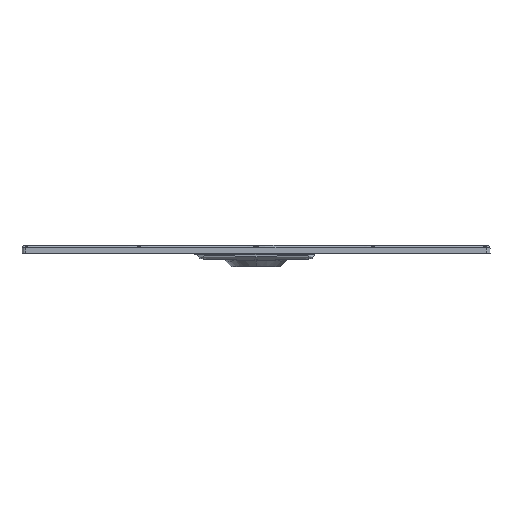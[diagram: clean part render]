
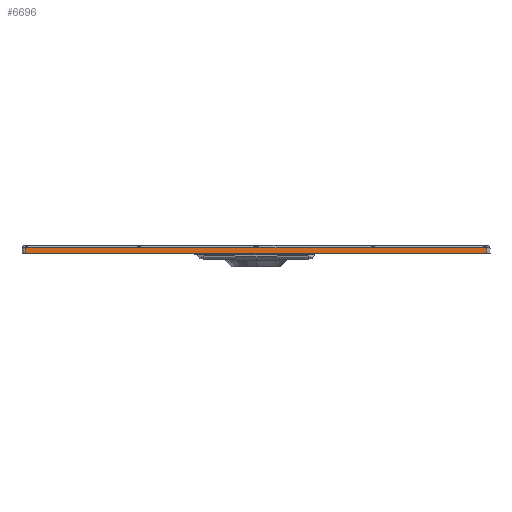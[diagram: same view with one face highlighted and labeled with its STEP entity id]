
A CAD part, top view. The second image highlights one B-rep face of the part: STEP entity #6696.
In plain terms, the highlighted planar face has unit normal (0, 0, 1).
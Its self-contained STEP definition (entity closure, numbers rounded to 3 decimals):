
#327=DIRECTION('',(0.,1.,0.));
#328=VECTOR('',#327,10.);
#329=CARTESIAN_POINT('',(443.,-15.,700.));
#330=LINE('',#329,#328);
#331=DIRECTION('',(-1.,0.,0.));
#332=VECTOR('',#331,886.);
#333=CARTESIAN_POINT('',(443.,-15.,700.));
#334=LINE('',#333,#332);
#335=DIRECTION('',(0.,1.,0.));
#336=VECTOR('',#335,10.);
#337=CARTESIAN_POINT('',(-443.,-15.,700.));
#338=LINE('',#337,#336);
#339=CARTESIAN_POINT('',(-443.,-5.,700.));
#340=CARTESIAN_POINT('',(-436.186,-5.,700.));
#341=CARTESIAN_POINT('',(-423.139,-5.001,700.));
#342=CARTESIAN_POINT('',(-403.937,-5.003,700.));
#343=CARTESIAN_POINT('',(-384.914,-5.005,700.));
#344=CARTESIAN_POINT('',(-364.854,-5.009,700.));
#345=CARTESIAN_POINT('',(-343.285,-5.013,700.));
#346=CARTESIAN_POINT('',(-320.431,-5.019,700.));
#347=CARTESIAN_POINT('',(-296.855,-5.026,700.));
#348=CARTESIAN_POINT('',(-273.044,-5.034,700.));
#349=CARTESIAN_POINT('',(-249.071,-5.042,700.));
#350=CARTESIAN_POINT('',(-233.092,-5.048,700.));
#351=CARTESIAN_POINT('',(-225.01,-5.051,700.));
#353=CARTESIAN_POINT('',(-225.01,-5.051,700.));
#354=CARTESIAN_POINT('',(-220.054,-5.053,700.));
#355=CARTESIAN_POINT('',(-209.848,-5.057,700.));
#356=CARTESIAN_POINT('',(-193.348,-5.064,700.));
#357=CARTESIAN_POINT('',(-176.598,-5.071,700.));
#358=CARTESIAN_POINT('',(-159.181,-5.078,700.));
#359=CARTESIAN_POINT('',(-141.052,-5.086,700.));
#360=CARTESIAN_POINT('',(-123.787,-5.092,700.));
#361=CARTESIAN_POINT('',(-107.278,-5.099,700.));
#362=CARTESIAN_POINT('',(-91.646,-5.104,700.));
#363=CARTESIAN_POINT('',(-76.966,-5.109,700.));
#364=CARTESIAN_POINT('',(-62.803,-5.113,700.));
#365=CARTESIAN_POINT('',(-50.337,-5.116,700.));
#366=CARTESIAN_POINT('',(-38.24,-5.118,700.));
#367=CARTESIAN_POINT('',(-26.089,-5.12,700.));
#368=CARTESIAN_POINT('',(-14.01,-5.121,700.));
#369=CARTESIAN_POINT('',(-4.798,-5.121,700.));
#370=CARTESIAN_POINT('',(-0.002,-5.121,
700.));
#372=CARTESIAN_POINT('',(225.01,-5.051,700.));
#373=CARTESIAN_POINT('',(233.092,-5.048,700.));
#374=CARTESIAN_POINT('',(249.071,-5.042,700.));
#375=CARTESIAN_POINT('',(273.044,-5.034,700.));
#376=CARTESIAN_POINT('',(296.855,-5.026,700.));
#377=CARTESIAN_POINT('',(320.431,-5.019,700.));
#378=CARTESIAN_POINT('',(343.285,-5.013,700.));
#379=CARTESIAN_POINT('',(364.854,-5.009,700.));
#380=CARTESIAN_POINT('',(384.914,-5.005,700.));
#381=CARTESIAN_POINT('',(403.937,-5.003,700.));
#382=CARTESIAN_POINT('',(423.139,-5.001,700.));
#383=CARTESIAN_POINT('',(436.186,-5.,700.));
#384=CARTESIAN_POINT('',(443.,-5.,700.));
#990=CARTESIAN_POINT('',(225.01,-5.051,700.));
#991=CARTESIAN_POINT('',(198.519,-5.062,700.));
#992=CARTESIAN_POINT('',(146.528,-5.084,700.));
#993=CARTESIAN_POINT('',(71.274,-5.113,700.));
#994=CARTESIAN_POINT('',(23.4,-5.121,700.));
#995=CARTESIAN_POINT('',(-0.002,-5.121,
700.));
#5768=CARTESIAN_POINT('',(-443.,-15.,700.));
#5769=VERTEX_POINT('',#5768);
#5770=CARTESIAN_POINT('',(443.,-15.,700.));
#5771=VERTEX_POINT('',#5770);
#5796=CARTESIAN_POINT('',(-443.,-5.,700.));
#5797=VERTEX_POINT('',#5796);
#5831=CARTESIAN_POINT('',(443.,-5.,700.));
#5832=VERTEX_POINT('',#5831);
#5833=VERTEX_POINT('',#351);
#5834=VERTEX_POINT('',#370);
#5835=VERTEX_POINT('',#990);
#6678=CARTESIAN_POINT('',(450.,0.,700.));
#6679=DIRECTION('',(0.,0.,-1.));
#6680=DIRECTION('',(-1.,0.,0.));
#6681=AXIS2_PLACEMENT_3D('',#6678,#6679,#6680);
#6682=PLANE('',#6681);
#6683=ORIENTED_EDGE('',*,*,#6238,.T.);
#6684=ORIENTED_EDGE('',*,*,#6280,.T.);
#6686=ORIENTED_EDGE('',*,*,#6685,.T.);
#6688=ORIENTED_EDGE('',*,*,#6687,.T.);
#6690=ORIENTED_EDGE('',*,*,#6689,.F.);
#6692=ORIENTED_EDGE('',*,*,#6691,.T.);
#6693=ORIENTED_EDGE('',*,*,#6670,.F.);
#6694=EDGE_LOOP('',(#6683,#6684,#6686,#6688,#6690,#6692,#6693));
#6695=FACE_OUTER_BOUND('',#6694,.F.);
#6696=ADVANCED_FACE('',(#6695),#6682,.F.);
#352=B_SPLINE_CURVE_WITH_KNOTS('',3,(#339,#340,#341,#342,#343,#344,#345,#346,
#347,#348,#349,#350,#351),.UNSPECIFIED.,.F.,.F.,(4,1,1,1,1,1,1,1,1,1,4),(0.,
0.094,0.18,0.264,0.356,
0.456,0.561,0.67,0.78,
0.889,1.),.UNSPECIFIED.);
#371=B_SPLINE_CURVE_WITH_KNOTS('',3,(#353,#354,#355,#356,#357,#358,#359,#360,
#361,#362,#363,#364,#365,#366,#367,#368,#369,#370),.UNSPECIFIED.,.F.,.F.,(4,1,1,
1,1,1,1,1,1,1,1,1,1,1,1,4),(0.,0.067,0.133,0.2,
0.267,0.333,0.4,0.467,0.533,
0.6,0.667,0.733,0.8,0.867,
0.933,1.),.UNSPECIFIED.);
#385=B_SPLINE_CURVE_WITH_KNOTS('',3,(#372,#373,#374,#375,#376,#377,#378,#379,
#380,#381,#382,#383,#384),.UNSPECIFIED.,.F.,.F.,(4,1,1,1,1,1,1,1,1,1,4),(0.,
0.111,0.22,0.33,0.439,
0.544,0.644,0.736,0.82,
0.906,1.),.UNSPECIFIED.);
#996=B_SPLINE_CURVE_WITH_KNOTS('',3,(#990,#991,#992,#993,#994,#995),
.UNSPECIFIED.,.F.,.F.,(4,1,1,4),(0.,0.333,0.667,1.),
.UNSPECIFIED.);
#6238=EDGE_CURVE('',#5771,#5769,#334,.T.);
#6280=EDGE_CURVE('',#5769,#5797,#338,.T.);
#6670=EDGE_CURVE('',#5771,#5832,#330,.T.);
#6685=EDGE_CURVE('',#5797,#5833,#352,.T.);
#6687=EDGE_CURVE('',#5833,#5834,#371,.T.);
#6689=EDGE_CURVE('',#5835,#5834,#996,.T.);
#6691=EDGE_CURVE('',#5835,#5832,#385,.T.);
